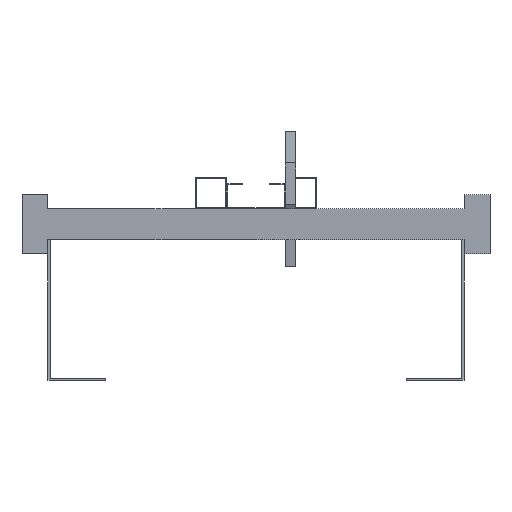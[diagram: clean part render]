
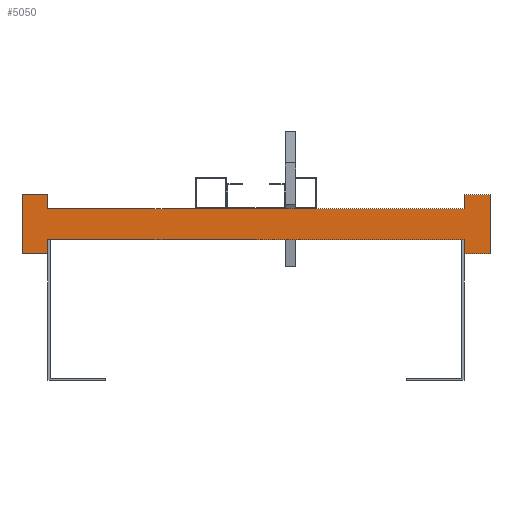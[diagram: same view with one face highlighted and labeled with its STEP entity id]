
A CAD part, front view. The second image highlights one B-rep face of the part: STEP entity #5050.
In plain terms, the highlighted planar face has unit normal (0, -1, 0).
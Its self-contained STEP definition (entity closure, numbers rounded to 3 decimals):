
#1821=DIRECTION('',(0.,0.,1.));
#1822=VECTOR('',#1821,13.5);
#1823=CARTESIAN_POINT('',(200.,0.,-28.5));
#1824=LINE('',#1823,#1822);
#1825=DIRECTION('',(0.,0.,-1.));
#1826=VECTOR('',#1825,13.5);
#1827=CARTESIAN_POINT('',(-200.,0.,-15.));
#1828=LINE('',#1827,#1826);
#1829=DIRECTION('',(-1.,0.,0.));
#1830=VECTOR('',#1829,25.);
#1831=CARTESIAN_POINT('',(-200.,0.,-28.5));
#1832=LINE('',#1831,#1830);
#1833=DIRECTION('',(0.,0.,1.));
#1834=VECTOR('',#1833,57.);
#1835=CARTESIAN_POINT('',(-225.,0.,-28.5));
#1836=LINE('',#1835,#1834);
#1837=DIRECTION('',(1.,0.,0.));
#1838=VECTOR('',#1837,25.);
#1839=CARTESIAN_POINT('',(-225.,0.,28.5));
#1840=LINE('',#1839,#1838);
#1841=DIRECTION('',(0.,0.,-1.));
#1842=VECTOR('',#1841,13.5);
#1843=CARTESIAN_POINT('',(-200.,0.,28.5));
#1844=LINE('',#1843,#1842);
#1845=DIRECTION('',(0.,0.,1.));
#1846=VECTOR('',#1845,13.5);
#1847=CARTESIAN_POINT('',(200.,0.,15.));
#1848=LINE('',#1847,#1846);
#1849=DIRECTION('',(1.,0.,0.));
#1850=VECTOR('',#1849,25.);
#1851=CARTESIAN_POINT('',(200.,0.,28.5));
#1852=LINE('',#1851,#1850);
#1853=DIRECTION('',(0.,0.,-1.));
#1854=VECTOR('',#1853,57.);
#1855=CARTESIAN_POINT('',(225.,0.,28.5));
#1856=LINE('',#1855,#1854);
#1857=DIRECTION('',(-1.,0.,0.));
#1858=VECTOR('',#1857,25.);
#1859=CARTESIAN_POINT('',(225.,0.,-28.5));
#1860=LINE('',#1859,#1858);
#1861=DIRECTION('',(1.,0.,0.));
#1862=VECTOR('',#1861,400.);
#1863=CARTESIAN_POINT('',(-200.,0.,-15.));
#1864=LINE('',#1863,#1862);
#1873=DIRECTION('',(1.,0.,0.));
#1874=VECTOR('',#1873,400.);
#1875=CARTESIAN_POINT('',(-200.,0.,15.));
#1876=LINE('',#1875,#1874);
#1929=CARTESIAN_POINT('',(-225.,0.,28.5));
#1930=CARTESIAN_POINT('',(-200.,0.,28.5));
#1931=VERTEX_POINT('',#1929);
#1932=VERTEX_POINT('',#1930);
#1933=CARTESIAN_POINT('',(-200.,0.,-28.5));
#1934=CARTESIAN_POINT('',(-225.,0.,-28.5));
#1935=VERTEX_POINT('',#1933);
#1936=VERTEX_POINT('',#1934);
#1937=CARTESIAN_POINT('',(225.,0.,28.5));
#1938=CARTESIAN_POINT('',(225.,0.,-28.5));
#1939=VERTEX_POINT('',#1937);
#1940=VERTEX_POINT('',#1938);
#1941=CARTESIAN_POINT('',(200.,0.,-28.5));
#1942=VERTEX_POINT('',#1941);
#1943=CARTESIAN_POINT('',(200.,0.,28.5));
#1944=VERTEX_POINT('',#1943);
#1961=CARTESIAN_POINT('',(-200.,0.,-15.));
#1963=VERTEX_POINT('',#1961);
#1965=CARTESIAN_POINT('',(-200.,0.,15.));
#1967=VERTEX_POINT('',#1965);
#1969=CARTESIAN_POINT('',(200.,0.,-15.));
#1971=VERTEX_POINT('',#1969);
#1973=CARTESIAN_POINT('',(200.,0.,15.));
#1975=VERTEX_POINT('',#1973);
#5025=CARTESIAN_POINT('',(0.,0.,0.));
#5026=DIRECTION('',(0.,1.,0.));
#5027=DIRECTION('',(1.,0.,0.));
#5028=AXIS2_PLACEMENT_3D('',#5025,#5026,#5027);
#5029=PLANE('',#5028);
#5030=ORIENTED_EDGE('',*,*,#2869,.T.);
#5032=ORIENTED_EDGE('',*,*,#5031,.F.);
#5033=ORIENTED_EDGE('',*,*,#2581,.T.);
#5034=ORIENTED_EDGE('',*,*,#3919,.T.);
#5036=ORIENTED_EDGE('',*,*,#5035,.T.);
#5038=ORIENTED_EDGE('',*,*,#5037,.T.);
#5039=ORIENTED_EDGE('',*,*,#2589,.T.);
#5041=ORIENTED_EDGE('',*,*,#5040,.T.);
#5042=ORIENTED_EDGE('',*,*,#2861,.T.);
#5044=ORIENTED_EDGE('',*,*,#5043,.T.);
#5046=ORIENTED_EDGE('',*,*,#5045,.T.);
#5047=ORIENTED_EDGE('',*,*,#4236,.T.);
#5048=EDGE_LOOP('',(#5030,#5032,#5033,#5034,#5036,#5038,#5039,#5041,#5042,#5044,
#5046,#5047));
#5049=FACE_OUTER_BOUND('',#5048,.F.);
#2581=EDGE_CURVE('',#1963,#1935,#1828,.T.);
#2589=EDGE_CURVE('',#1932,#1967,#1844,.T.);
#2861=EDGE_CURVE('',#1975,#1944,#1848,.T.);
#2869=EDGE_CURVE('',#1942,#1971,#1824,.T.);
#3919=EDGE_CURVE('',#1935,#1936,#1832,.T.);
#4236=EDGE_CURVE('',#1940,#1942,#1860,.T.);
#5031=EDGE_CURVE('',#1963,#1971,#1864,.T.);
#5035=EDGE_CURVE('',#1936,#1931,#1836,.T.);
#5037=EDGE_CURVE('',#1931,#1932,#1840,.T.);
#5040=EDGE_CURVE('',#1967,#1975,#1876,.T.);
#5043=EDGE_CURVE('',#1944,#1939,#1852,.T.);
#5045=EDGE_CURVE('',#1939,#1940,#1856,.T.);
#5050=ADVANCED_FACE('',(#5049),#5029,.F.);
